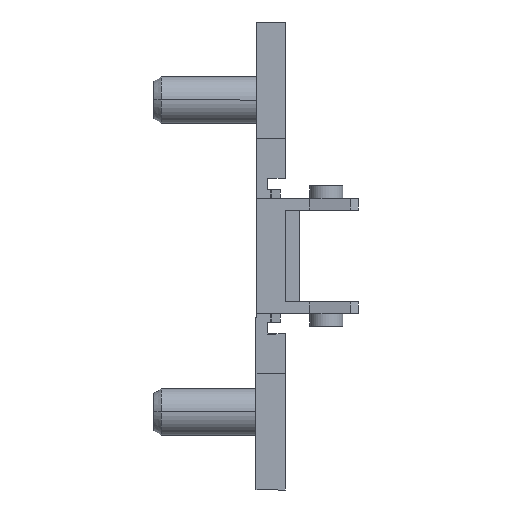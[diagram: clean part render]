
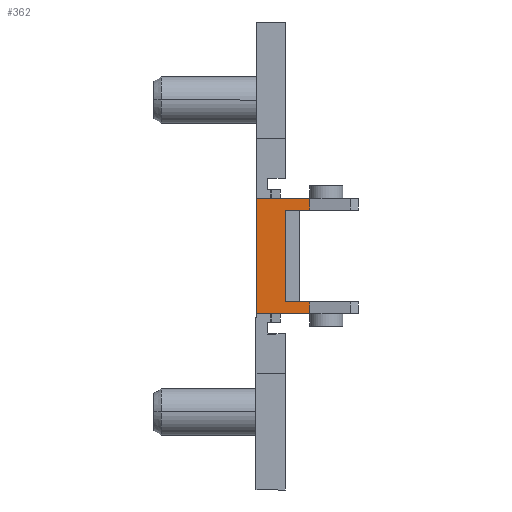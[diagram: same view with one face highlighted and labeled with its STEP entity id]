
A CAD part, front view. The second image highlights one B-rep face of the part: STEP entity #362.
In plain terms, the highlighted planar face has unit normal (0, -1, 0).
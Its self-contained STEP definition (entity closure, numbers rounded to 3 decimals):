
#18 = EDGE_CURVE ( 'NONE', #2499, #2569, #3873, .T. ) ;
#59 = EDGE_CURVE ( 'NONE', #2564, #2569, #3967, .T. ) ;
#78 = EDGE_CURVE ( 'NONE', #2518, #2564, #4079, .T. ) ;
#107 = EDGE_CURVE ( 'NONE', #315, #456, #4172, .T. ) ;
#176 = EDGE_CURVE ( 'NONE', #2587, #2518, #4314, .T. ) ;
#226 = EDGE_CURVE ( 'NONE', #456, #2499, #4400, .T. ) ;
#300 = EDGE_CURVE ( 'NONE', #2587, #2435, #1476, .T. ) ;
#315 = VERTEX_POINT ( 'NONE', #3344 ) ;
#362 = ADVANCED_FACE ( 'NONE', ( #1551 ), #3577, .T. ) ;
#456 = VERTEX_POINT ( 'NONE', #1962 ) ;
#1065 = ORIENTED_EDGE ( 'NONE', *, *, #226, .F. ) ;
#1066 = ORIENTED_EDGE ( 'NONE', *, *, #18, .F. ) ;
#1067 = ORIENTED_EDGE ( 'NONE', *, *, #59, .T. ) ;
#1068 = ORIENTED_EDGE ( 'NONE', *, *, #78, .T. ) ;
#1069 = ORIENTED_EDGE ( 'NONE', *, *, #176, .T. ) ;
#1070 = ORIENTED_EDGE ( 'NONE', *, *, #300, .F. ) ;
#1071 = ORIENTED_EDGE ( 'NONE', *, *, #1359, .T. ) ;
#1072 = ORIENTED_EDGE ( 'NONE', *, *, #107, .F. ) ;
#1359 = EDGE_CURVE ( 'NONE', #315, #2435, #1745, .T. ) ;
#1371 = AXIS2_PLACEMENT_3D ( 'NONE', #3583, #3596, #3598 ) ;
#1476 = LINE ( 'NONE', #3317, #1477 ) ;
#1477 = VECTOR ( 'NONE', #3318, 1000. ) ;
#1551 = FACE_OUTER_BOUND ( 'NONE', #3524, .T. ) ;
#1745 = LINE ( 'NONE', #2030, #1746 ) ;
#1746 = VECTOR ( 'NONE', #2031, 1000. ) ;
#1962 = CARTESIAN_POINT ( 'NONE',  ( 3., -16.55, -4.7 ) ) ;
#2030 = CARTESIAN_POINT ( 'NONE',  ( 10.5, -16.55, 4.7 ) ) ;
#2031 = DIRECTION ( 'NONE',  ( 1., 0., 0. ) ) ;
#2134 = CARTESIAN_POINT ( 'NONE',  ( 5.523, -16.55, 4.7 ) ) ;
#2194 = CARTESIAN_POINT ( 'NONE',  ( 5.523, -16.55, -4.7 ) ) ;
#2210 = CARTESIAN_POINT ( 'NONE',  ( 0., -16.55, 5.9 ) ) ;
#2250 = CARTESIAN_POINT ( 'NONE',  ( 0., -16.55, -5.9 ) ) ;
#2254 = CARTESIAN_POINT ( 'NONE',  ( 5.523, -16.55, -5.9 ) ) ;
#2272 = CARTESIAN_POINT ( 'NONE',  ( 5.523, -16.55, 5.9 ) ) ;
#2435 = VERTEX_POINT ( 'NONE', #2134 ) ;
#2499 = VERTEX_POINT ( 'NONE', #2194 ) ;
#2518 = VERTEX_POINT ( 'NONE', #2210 ) ;
#2564 = VERTEX_POINT ( 'NONE', #2250 ) ;
#2569 = VERTEX_POINT ( 'NONE', #2254 ) ;
#2587 = VERTEX_POINT ( 'NONE', #2272 ) ;
#2640 = CARTESIAN_POINT ( 'NONE',  ( 5.523, -16.55, 67.733 ) ) ;
#2641 = DIRECTION ( 'NONE',  ( 0., 0., -1. ) ) ;
#2736 = CARTESIAN_POINT ( 'NONE',  ( 1.5, -16.55, -5.9 ) ) ;
#2739 = DIRECTION ( 'NONE',  ( 1., 0., 0. ) ) ;
#2772 = CARTESIAN_POINT ( 'NONE',  ( 0., -16.55, 15.37 ) ) ;
#2781 = DIRECTION ( 'NONE',  ( 0., 0., -1. ) ) ;
#2839 = CARTESIAN_POINT ( 'NONE',  ( 3., -16.55, -5.9 ) ) ;
#2844 = DIRECTION ( 'NONE',  ( 0., 0., -1. ) ) ;
#3003 = CARTESIAN_POINT ( 'NONE',  ( 10.5, -16.55, 5.9 ) ) ;
#3006 = DIRECTION ( 'NONE',  ( -1., 0., 0. ) ) ;
#3142 = CARTESIAN_POINT ( 'NONE',  ( 10.5, -16.55, -4.7 ) ) ;
#3143 = DIRECTION ( 'NONE',  ( 1., 0., 0. ) ) ;
#3317 = CARTESIAN_POINT ( 'NONE',  ( 5.523, -16.55, 67.733 ) ) ;
#3318 = DIRECTION ( 'NONE',  ( 0., 0., -1. ) ) ;
#3344 = CARTESIAN_POINT ( 'NONE',  ( 3., -16.55, 4.7 ) ) ;
#3524 = EDGE_LOOP ( 'NONE', ( #1072, #1071, #1070, #1069, #1068, #1067, #1066, #1065 ) ) ;
#3577 = PLANE ( 'NONE',  #1371 ) ;
#3583 = CARTESIAN_POINT ( 'NONE',  ( 10.5, -16.55, -5.9 ) ) ;
#3596 = DIRECTION ( 'NONE',  ( 0., -1., 0. ) ) ;
#3598 = DIRECTION ( 'NONE',  ( -1., 0., 0. ) ) ;
#3873 = LINE ( 'NONE', #2640, #3875 ) ;
#3875 = VECTOR ( 'NONE', #2641, 1000. ) ;
#3967 = LINE ( 'NONE', #2736, #4008 ) ;
#4008 = VECTOR ( 'NONE', #2739, 1000. ) ;
#4036 = VECTOR ( 'NONE', #2781, 1000. ) ;
#4079 = LINE ( 'NONE', #2772, #4036 ) ;
#4172 = LINE ( 'NONE', #2839, #4185 ) ;
#4185 = VECTOR ( 'NONE', #2844, 1000. ) ;
#4314 = LINE ( 'NONE', #3003, #4321 ) ;
#4321 = VECTOR ( 'NONE', #3006, 1000. ) ;
#4390 = VECTOR ( 'NONE', #3143, 1000. ) ;
#4400 = LINE ( 'NONE', #3142, #4390 ) ;
